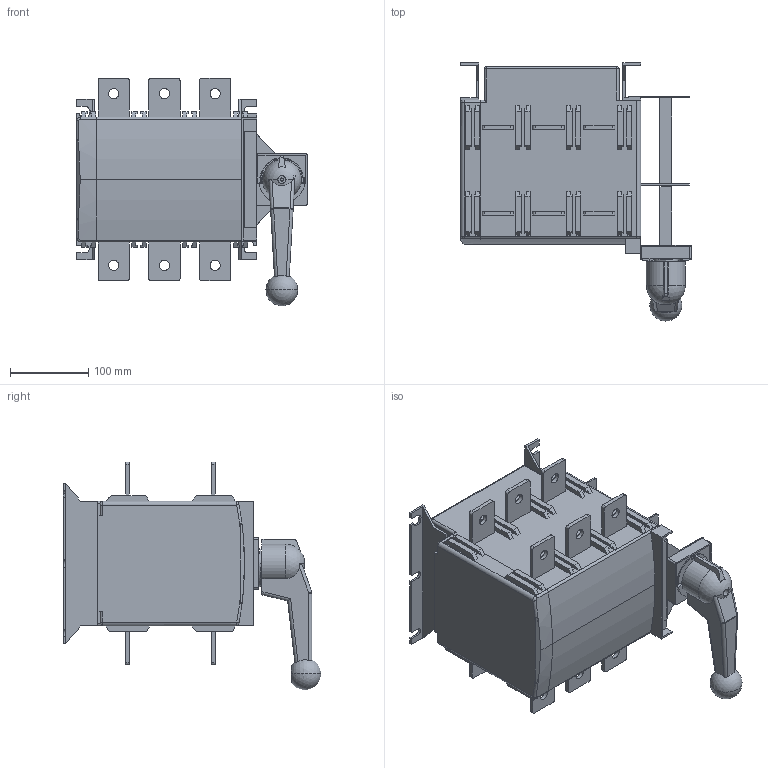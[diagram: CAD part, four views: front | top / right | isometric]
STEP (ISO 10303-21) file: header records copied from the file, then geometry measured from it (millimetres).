
FILE_DESCRIPTION((''),'2;1');
FILE_NAME('10-NH40-630-3CS_3P_202405_ASM','2024-05-25T',('zhuanghy'),(''),'CREO PARAMETRIC BY PTC INC, 2018070','CREO PARAMETRIC BY PTC INC, 2018070','');
FILE_SCHEMA(('AUTOMOTIVE_DESIGN { 1 0 10303 214 1 1 1 1 }'));
Length unit declared in the file: millimetre
Products named in the file (69): ASM000KG_ASM_1_1_2_AF0_ASM_1_1_ASM; PRT0002_1_AF0_1_1_2_3_4_5_AF0_3; ASM0002_ASM_1_AF0_ASM_1_1_2_A_2_ASM; NH40-315_400-3CS_3P_202401__A_2_ASM; ASM0005_ASM_1_ASM_1_1_ASM; 630-4_0_ASM_ASM_1_1_ASM; PRT0003_1_AF0_1_1_2_3_ASM_1_1_3; NH40-250-630_ASM_5_ASM_1_2_3__3; NH40-250_630_2021_7__ASM_1_2__3_ASM; ASM0005_ASM_1_ASM_1_1_2_ASM_1_2_ASM; ASM0004_ASM_1_AF0_ASM_1_1_2_A_2_ASM; NH40-315_400-4CSW_3P_202312___6_ASM; ASM0004_ASM_1_1_2_3_ASM_1_1_ASM; PRT0003_1_AF1_1_1_2_3_4_5_AF0_2; DZNH40-250-630_1_1_2_3_1_AF0__3; ZBNH40-250-630_3_1_2_3_1_AF0__3; ZZNH40-250-630_2_1_2_3_1_AF0__3; LM4_3_1_2_3_1_AF0_1_1_2_3_4_5_2; LM4_3_1_2_3_1_AF1_1_1_2_3_4_5_2; LM4_3_1_2_3_1_AF2_1_1_2_3_4_5_2; KZNH40-250-630_1_1_2_3_1_AF0__3; LM4_3_1_2_3_1_AF3_1_1_2_3_4_5_2; ZNH40-250-630_3_1_2_3_1_AF0___3; 121_1_1_2_3_1_AF0_1_1_2_3_4_5_2; NH40-250-630_ASM_5_ASM_1_2____3_ASM; 1213_2_1_2_3_1_AF0_1_1_2_3_4__3; LSM6_11_1_2_3_1_AF0_1_1_2_3_4_2; NH40-250_630_2021_7__ASM_1____3_ASM; ASM0005_ASM_1_AF0_ASM_1_1_2_3_2_ASM; NH40-315_630-S_202107_1_AF0___3; ASM0004_ASM_1_AF1_ASM_1_1_2_A_2_ASM; NH40-315_400-4CSW_3P_202312__10_ASM; ASM0007_ASM_1_1_2_ASM_1_1_2_A_2_ASM; ASM0008_ASM_1_1_2_ASM_1_1_ASM; DZNH40-250-630_1_1_2_3_1_AF0__4; ZBNH40-250-630_3_1_2_3_1_AF0__4; ZZNH40-250-630_2_1_2_3_1_AF0__4; LM4_3_1_2_3_1_AF0_1_1_2_3_4___2; LM4_3_1_2_3_1_AF1_1_1_2_3_4___2; LM4_3_1_2_3_1_AF2_1_1_2_3_4___2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
Assembly tree (68 placements, depth 12):
  10-NH40-630-3CS_3P_202405_ASM
    ASM0007_ASM_1_1_ASM
      ASM000KG_ASM_1_1_2_AF0_ASM_1_1_ASM
      630-4_0_ASM_ASM_1_1_ASM
        ASM0005_ASM_1_ASM_1_1_ASM
          NH40-315_400-3CS_3P_202401__A_2_ASM
            ASM0002_ASM_1_AF0_ASM_1_1_2_A_2_ASM
              PRT0002_1_AF0_1_1_2_3_4_5_AF0_3
      ASM0008_ASM_1_1_ASM
        NH40-315_400-4CSW_3P_202312___9_ASM
          ASM0004_ASM_1_1_2_3_ASM_1_1_ASM
            NH40-315_400-4CSW_3P_202312___6_ASM
              ASM0004_ASM_1_AF0_ASM_1_1_2_A_2_ASM
                PRT0003_1_AF0_1_1_2_3_ASM_1_1_3
                ASM0005_ASM_1_ASM_1_1_2_ASM_1_2_ASM
                  NH40-250_630_2021_7__ASM_1_2__3_ASM
          ASM0008_ASM_1_1_2_ASM_1_1_ASM
            ASM0007_ASM_1_1_2_ASM_1_1_2_A_2_ASM
              NH40-315_400-4CSW_3P_202312__10_ASM
                ASM0004_ASM_1_AF1_ASM_1_1_2_A_2_ASM
                  PRT0003_1_AF1_1_1_2_3_4_5_AF0_2
                  ASM0005_ASM_1_AF0_ASM_1_1_2_3_2_ASM
                  NH40-315_630-S_202107_1_AF0___3
          NH40-400-4-2_21CSW_ASM_ASM_1__3_ASM
            ASM0007_ASM_1_1_2_3_ASM_1_1_2_2_ASM
              NH40-315_400-4CSW_3P_202312__11_ASM
                ASM0004_ASM_1_AF1_ASM_1_1_2___2_ASM
                  ASM0005_ASM_1_AF0_ASM_1_1_2___2_ASM
                  NH40-315_630-S_202107_1_AF0___4
      ASM0009_ASM_1_1_ASM
        NH40-315_400-4CSW_3P_202312__15_ASM
          ASM0004_ASM_1_AF0_ASM_1_1_2_3_2_ASM
            PRT0003_1_AF0_1_1_2_3_4_ASM_1_1_ASM
              PRT0003_1_AF0_1_1_2_3_4_1_1_1_2
              PRT0003_1_AF0_1_1_2_3_4_2_1_1_2
            ASM0005_ASM_1_ASM_1_1_2_3_ASM_3_ASM
              NH40-250_630_2021_7__ASM_1_2__4_ASM
                NH40-250-630_ASM_5_ASM_1_2_3__4
            NH40-315_630-S_202107_1_1_1_2_2
    630-3
Bounding box: 295.75 x 330.3 x 291.93 mm (x, y, z)
Volume: 8549616.5 mm3; surface area: 582511.7 mm2
Topology: 6 solids, 6 shells, 721 faces, 1971 edges, 1312 vertices
Faces by surface type: plane 555, cylinder 121, extrusion 25, sphere 10, bspline 6, torus 4
Entity records: 26290 total; most frequent: CARTESIAN_POINT 5109, DIRECTION 3973, ORIENTED_EDGE 3922, EDGE_CURVE 1961, VECTOR 1585, LINE 1560, VERTEX_POINT 1312, AXIS2_PLACEMENT_3D 1194
